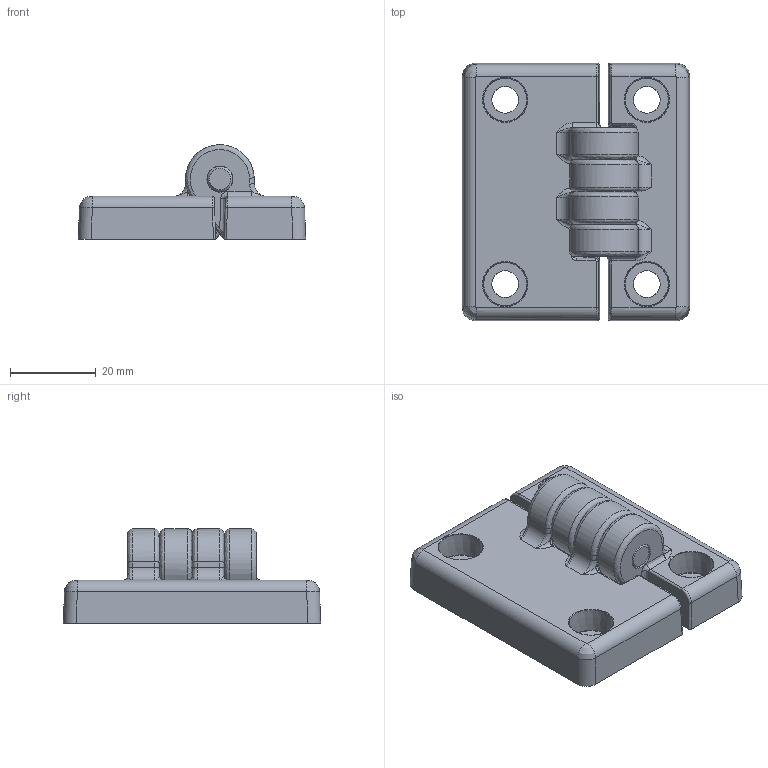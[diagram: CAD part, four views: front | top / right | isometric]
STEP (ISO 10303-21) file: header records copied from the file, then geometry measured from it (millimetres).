
FILE_DESCRIPTION (( 'STEP AP214' ), '1' );
FILE_NAME ('F31174A.step', '2024-12-03T16:17:32', ( '' ), ( '' ), 'SwSTEP 2.0', 'SolidWorks 2023', '' );
FILE_SCHEMA (( 'AUTOMOTIVE_DESIGN' ));
Length unit declared in the file: millimetre
Products named in the file (4): F31174A; L19182A; N30158; L19180A
Assembly tree (3 placements, depth 2):
  F31174A
    L19182A
    L19180A
    N30158
Bounding box: 53 x 60 x 22 mm (x, y, z)
Volume: 32146 mm3; surface area: 13389.3 mm2
Topology: 3 solids, 3 shells, 1251 faces, 3444 edges, 2230 vertices
Faces by surface type: plane 1046, cylinder 101, bspline 77, torus 17, cone 10
Full cylindrical faces by diameter (mm): 6 x1, 6.05 x4, 8 x4, 10 x1
Entity records: 52936 total; most frequent: CARTESIAN_POINT 22037, ORIENTED_EDGE 6766, DIRECTION 5729, EDGE_CURVE 3383, VECTOR 2801, LINE 2801, VERTEX_POINT 2213, AXIS2_PLACEMENT_3D 1464
